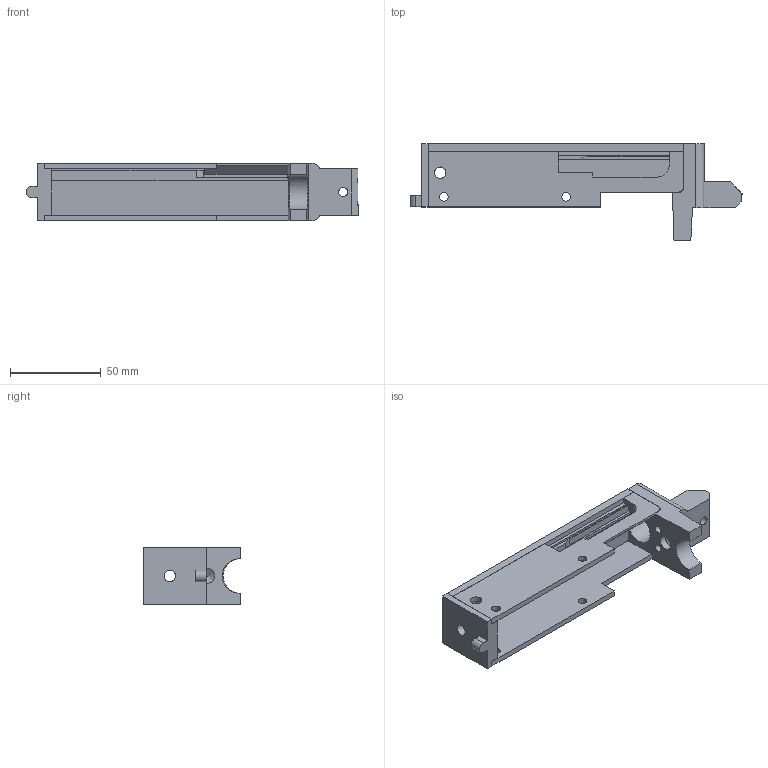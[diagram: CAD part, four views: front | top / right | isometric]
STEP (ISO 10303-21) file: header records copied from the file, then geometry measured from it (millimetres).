
FILE_DESCRIPTION((''),'2;1');
FILE_NAME('H:\PROJECTS\PERS.PROJECTS\Gray Area\Ruger10-22\Weldable Receiver\Weldable RCVR Assy1.stp','2011-10-10T15:43:26',('Bob'),(''),'Autodesk Inventor 2011','Autodesk Inventor 2011','');
FILE_SCHEMA(('AUTOMOTIVE_DESIGN { 1 0 10303 214 1 1 1 1 }'));
Length unit declared in the file: inch
Products named in the file (6): Weldable RCVR Assy1; 10-22 Rec-Right Side; 10-22 Rec-Left Side; 10-22 Rec-Rear Plate; 10-22 Rec-Top Plate; 10-22 Rec-Front Plate
Assembly tree (5 placements, depth 2):
  Weldable RCVR Assy1
    10-22 Rec-Right Side
    10-22 Rec-Left Side
    10-22 Rec-Rear Plate
    10-22 Rec-Top Plate
    10-22 Rec-Front Plate
Bounding box: 183.13 x 53.34 x 31.75 mm (x, y, z)
Volume: 79019 mm3; surface area: 40780.5 mm2
Topology: 5 solids, 5 shells, 114 faces, 325 edges, 217 vertices
Faces by surface type: plane 87, cylinder 25, cone 2
Full cylindrical faces by diameter (mm): 4.343 x2, 4.763 x5, 4.978 x1, 6.35 x3, 7.938 x1, 17.475 x1
Entity records: 3776 total; most frequent: CARTESIAN_POINT 683, DIRECTION 601, ORIENTED_EDGE 592, EDGE_CURVE 296, VECTOR 237, LINE 237, VERTEX_POINT 203, AXIS2_PLACEMENT_3D 182
